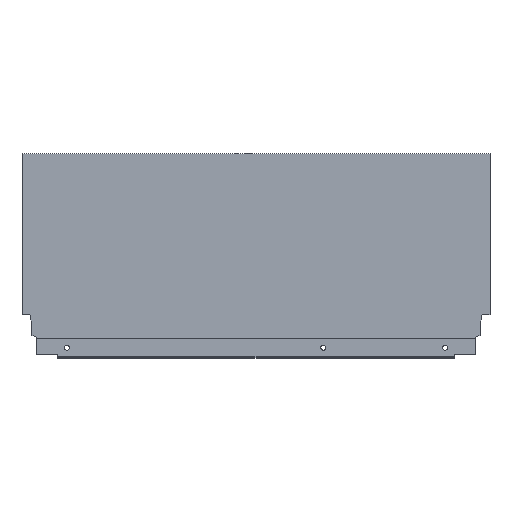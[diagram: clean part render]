
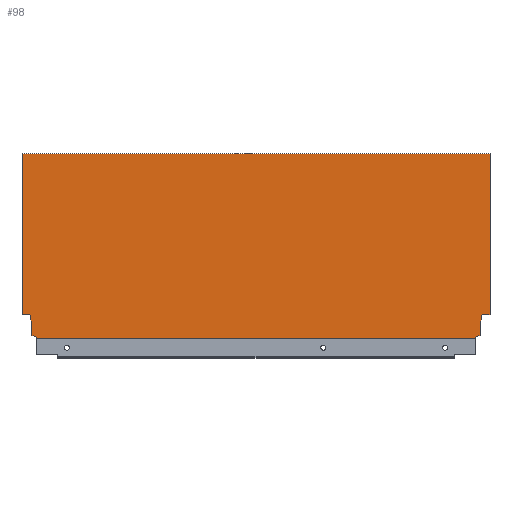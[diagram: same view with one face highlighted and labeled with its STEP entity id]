
A CAD part, top view. The second image highlights one B-rep face of the part: STEP entity #98.
In plain terms, the highlighted planar face has unit normal (0, 0, 1).
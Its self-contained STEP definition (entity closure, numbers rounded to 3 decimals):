
#98 = ADVANCED_FACE ( 'NONE', ( #1057 ), #736, .T. ) ;
#151 = EDGE_CURVE ( 'NONE', #594, #590, #915, .T. ) ;
#153 = EDGE_CURVE ( 'NONE', #782, #624, #919, .T. ) ;
#154 = EDGE_CURVE ( 'NONE', #751, #594, #921, .T. ) ;
#155 = EDGE_CURVE ( 'NONE', #624, #621, #923, .T. ) ;
#156 = EDGE_CURVE ( 'NONE', #590, #612, #925, .T. ) ;
#157 = EDGE_CURVE ( 'NONE', #725, #739, #927, .T. ) ;
#158 = EDGE_CURVE ( 'NONE', #612, #576, #929, .T. ) ;
#159 = EDGE_CURVE ( 'NONE', #658, #713, #931, .T. ) ;
#160 = EDGE_CURVE ( 'NONE', #576, #782, #933, .T. ) ;
#162 = EDGE_CURVE ( 'NONE', #751, #713, #937, .T. ) ;
#163 = EDGE_CURVE ( 'NONE', #614, #685, #990, .T. ) ;
#164 = EDGE_CURVE ( 'NONE', #685, #725, #941, .T. ) ;
#166 = EDGE_CURVE ( 'NONE', #739, #658, #914, .T. ) ;
#168 = EDGE_CURVE ( 'NONE', #614, #621, #949, .T. ) ;
#213 = AXIS2_PLACEMENT_3D ( 'NONE', #727, #719, #717 ) ;
#286 = CARTESIAN_POINT ( 'NONE',  ( -8.9, 2.64, 7.5 ) ) ;
#296 = CARTESIAN_POINT ( 'NONE',  ( -417., 164.7, 7.5 ) ) ;
#300 = CARTESIAN_POINT ( 'NONE',  ( -408.1, 10.765, 7.5 ) ) ;
#302 = CARTESIAN_POINT ( 'NONE',  ( -408.1, 2.64, 7.5 ) ) ;
#305 = CARTESIAN_POINT ( 'NONE',  ( -417., 21.2, 7.5 ) ) ;
#308 = CARTESIAN_POINT ( 'NONE',  ( -403.996, 1.146, 7.5 ) ) ;
#313 = CARTESIAN_POINT ( 'NONE',  ( -409.94, 21.2, 7.5 ) ) ;
#319 = CARTESIAN_POINT ( 'NONE',  ( -13.004, 1.146, 7.5 ) ) ;
#323 = CARTESIAN_POINT ( 'NONE',  ( -13.004, 0., 7.5 ) ) ;
#326 = CARTESIAN_POINT ( 'NONE',  ( -403.996, 0., 7.5 ) ) ;
#331 = CARTESIAN_POINT ( 'NONE',  ( -7.06, 21.2, 7.5 ) ) ;
#340 = CARTESIAN_POINT ( 'NONE',  ( 0., 164.7, 7.5 ) ) ;
#342 = CARTESIAN_POINT ( 'NONE',  ( 0., 21.2, 7.5 ) ) ;
#348 = CARTESIAN_POINT ( 'NONE',  ( -8.9, 10.765, 7.5 ) ) ;
#433 = DIRECTION ( 'NONE',  ( 1., 0., 0. ) ) ;
#435 = CARTESIAN_POINT ( 'NONE',  ( -417., 0., 7.5 ) ) ;
#440 = DIRECTION ( 'NONE',  ( -0.174, 0.985, 0. ) ) ;
#441 = CARTESIAN_POINT ( 'NONE',  ( -409.94, 21.2, 7.5 ) ) ;
#448 = DIRECTION ( 'NONE',  ( -0.94, 0.342, 0. ) ) ;
#449 = CARTESIAN_POINT ( 'NONE',  ( -408.1, 2.64, 7.5 ) ) ;
#451 = DIRECTION ( 'NONE',  ( 0., 1., 0. ) ) ;
#454 = DIRECTION ( 'NONE',  ( 0., -1., 0. ) ) ;
#456 = CARTESIAN_POINT ( 'NONE',  ( -417., 0., 7.5 ) ) ;
#464 = DIRECTION ( 'NONE',  ( 0., -1., 0. ) ) ;
#465 = CARTESIAN_POINT ( 'NONE',  ( -8.9, 10.765, 7.5 ) ) ;
#467 = DIRECTION ( 'NONE',  ( -1., 0., 0. ) ) ;
#468 = CARTESIAN_POINT ( 'NONE',  ( -422., 21.2, 7.5 ) ) ;
#469 = DIRECTION ( 'NONE',  ( -0.174, -0.985, 0. ) ) ;
#471 = CARTESIAN_POINT ( 'NONE',  ( -7.06, 21.2, 7.5 ) ) ;
#472 = DIRECTION ( 'NONE',  ( 0., 1., 0. ) ) ;
#473 = CARTESIAN_POINT ( 'NONE',  ( -408.1, 10.765, 7.5 ) ) ;
#474 = DIRECTION ( 'NONE',  ( -1., 0., 0. ) ) ;
#476 = CARTESIAN_POINT ( 'NONE',  ( 0., 21.2, 7.5 ) ) ;
#477 = DIRECTION ( 'NONE',  ( 0., -1., 0. ) ) ;
#479 = CARTESIAN_POINT ( 'NONE',  ( -13.004, 1.146, 7.5 ) ) ;
#488 = DIRECTION ( 'NONE',  ( 1., 0., 0. ) ) ;
#489 = CARTESIAN_POINT ( 'NONE',  ( -417., 164.7, 7.5 ) ) ;
#492 = DIRECTION ( 'NONE',  ( -0.94, -0.342, 0. ) ) ;
#493 = CARTESIAN_POINT ( 'NONE',  ( -8.9, 2.64, 7.5 ) ) ;
#498 = DIRECTION ( 'NONE',  ( 0., -1., 0. ) ) ;
#500 = CARTESIAN_POINT ( 'NONE',  ( 0., 0., 7.5 ) ) ;
#502 = CARTESIAN_POINT ( 'NONE',  ( -403.996, 1.146, 7.5 ) ) ;
#576 = VERTEX_POINT ( 'NONE', #348 ) ;
#590 = VERTEX_POINT ( 'NONE', #342 ) ;
#594 = VERTEX_POINT ( 'NONE', #340 ) ;
#612 = VERTEX_POINT ( 'NONE', #331 ) ;
#614 = VERTEX_POINT ( 'NONE', #326 ) ;
#621 = VERTEX_POINT ( 'NONE', #323 ) ;
#624 = VERTEX_POINT ( 'NONE', #319 ) ;
#658 = VERTEX_POINT ( 'NONE', #313 ) ;
#685 = VERTEX_POINT ( 'NONE', #308 ) ;
#713 = VERTEX_POINT ( 'NONE', #305 ) ;
#717 = DIRECTION ( 'NONE',  ( 1., 0., 0. ) ) ;
#719 = DIRECTION ( 'NONE',  ( 0., 0., 1. ) ) ;
#725 = VERTEX_POINT ( 'NONE', #302 ) ;
#727 = CARTESIAN_POINT ( 'NONE',  ( -417., 0., 7.5 ) ) ;
#736 = PLANE ( 'NONE',  #213 ) ;
#739 = VERTEX_POINT ( 'NONE', #300 ) ;
#751 = VERTEX_POINT ( 'NONE', #296 ) ;
#782 = VERTEX_POINT ( 'NONE', #286 ) ;
#914 = LINE ( 'NONE', #441, #946 ) ;
#915 = LINE ( 'NONE', #500, #916 ) ;
#916 = VECTOR ( 'NONE', #498, 1000. ) ;
#919 = LINE ( 'NONE', #493, #920 ) ;
#920 = VECTOR ( 'NONE', #492, 1000. ) ;
#921 = LINE ( 'NONE', #489, #922 ) ;
#922 = VECTOR ( 'NONE', #488, 1000. ) ;
#923 = LINE ( 'NONE', #479, #924 ) ;
#924 = VECTOR ( 'NONE', #477, 1000. ) ;
#925 = LINE ( 'NONE', #476, #926 ) ;
#926 = VECTOR ( 'NONE', #474, 1000. ) ;
#927 = LINE ( 'NONE', #473, #928 ) ;
#928 = VECTOR ( 'NONE', #472, 1000. ) ;
#929 = LINE ( 'NONE', #471, #930 ) ;
#930 = VECTOR ( 'NONE', #469, 1000. ) ;
#931 = LINE ( 'NONE', #468, #932 ) ;
#932 = VECTOR ( 'NONE', #467, 1000. ) ;
#933 = LINE ( 'NONE', #465, #934 ) ;
#934 = VECTOR ( 'NONE', #464, 1000. ) ;
#937 = LINE ( 'NONE', #456, #938 ) ;
#938 = VECTOR ( 'NONE', #454, 1000. ) ;
#939 = VECTOR ( 'NONE', #451, 1000. ) ;
#941 = LINE ( 'NONE', #449, #942 ) ;
#942 = VECTOR ( 'NONE', #448, 1000. ) ;
#946 = VECTOR ( 'NONE', #440, 1000. ) ;
#949 = LINE ( 'NONE', #435, #950 ) ;
#950 = VECTOR ( 'NONE', #433, 1000. ) ;
#990 = LINE ( 'NONE', #502, #939 ) ;
#1057 = FACE_OUTER_BOUND ( 'NONE', #1262, .T. ) ;
#1262 = EDGE_LOOP ( 'NONE', ( #1371, #1362, #1302, #1333, #1363, #1357, #1356, #1353, #1274, #1275, #1277, #1278, #1279, #1280 ) ) ;
#1274 = ORIENTED_EDGE ( 'NONE', *, *, #153, .F. ) ;
#1275 = ORIENTED_EDGE ( 'NONE', *, *, #160, .F. ) ;
#1277 = ORIENTED_EDGE ( 'NONE', *, *, #158, .F. ) ;
#1278 = ORIENTED_EDGE ( 'NONE', *, *, #156, .F. ) ;
#1279 = ORIENTED_EDGE ( 'NONE', *, *, #151, .F. ) ;
#1280 = ORIENTED_EDGE ( 'NONE', *, *, #154, .F. ) ;
#1302 = ORIENTED_EDGE ( 'NONE', *, *, #166, .F. ) ;
#1333 = ORIENTED_EDGE ( 'NONE', *, *, #157, .F. ) ;
#1353 = ORIENTED_EDGE ( 'NONE', *, *, #155, .F. ) ;
#1356 = ORIENTED_EDGE ( 'NONE', *, *, #168, .T. ) ;
#1357 = ORIENTED_EDGE ( 'NONE', *, *, #163, .F. ) ;
#1362 = ORIENTED_EDGE ( 'NONE', *, *, #159, .F. ) ;
#1363 = ORIENTED_EDGE ( 'NONE', *, *, #164, .F. ) ;
#1371 = ORIENTED_EDGE ( 'NONE', *, *, #162, .T. ) ;
